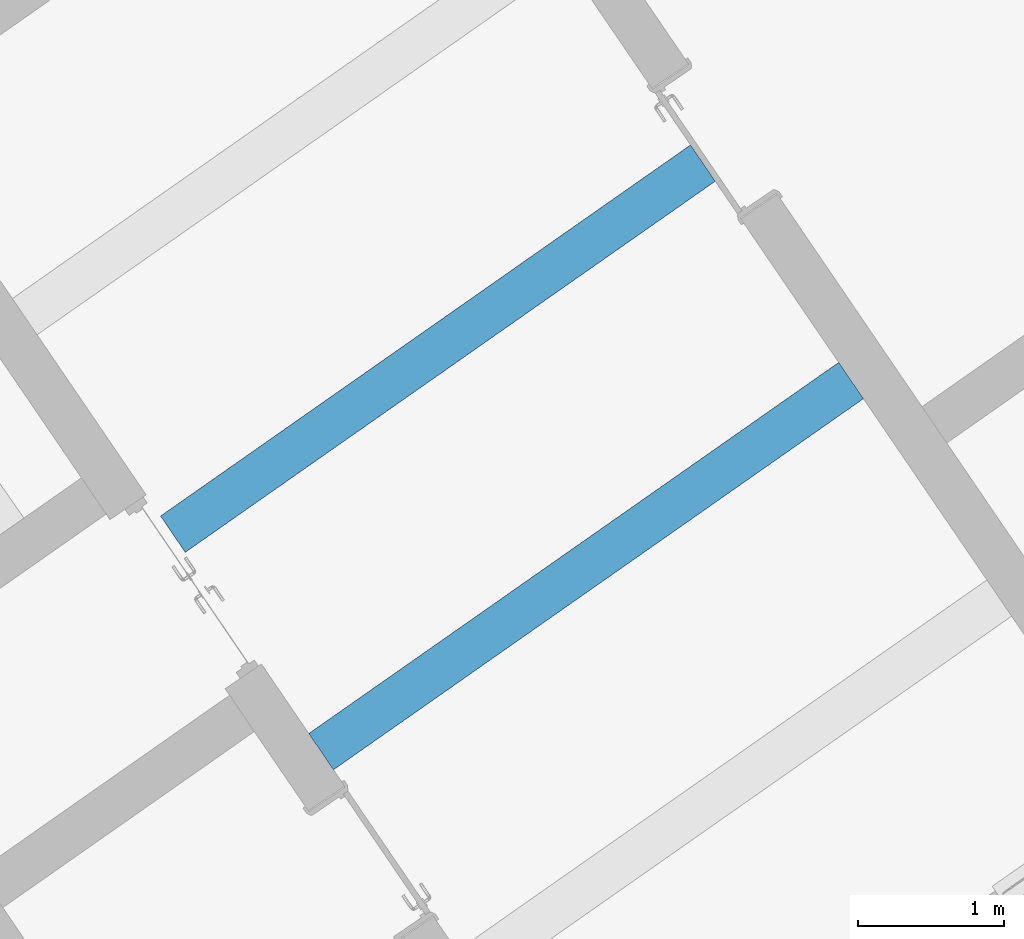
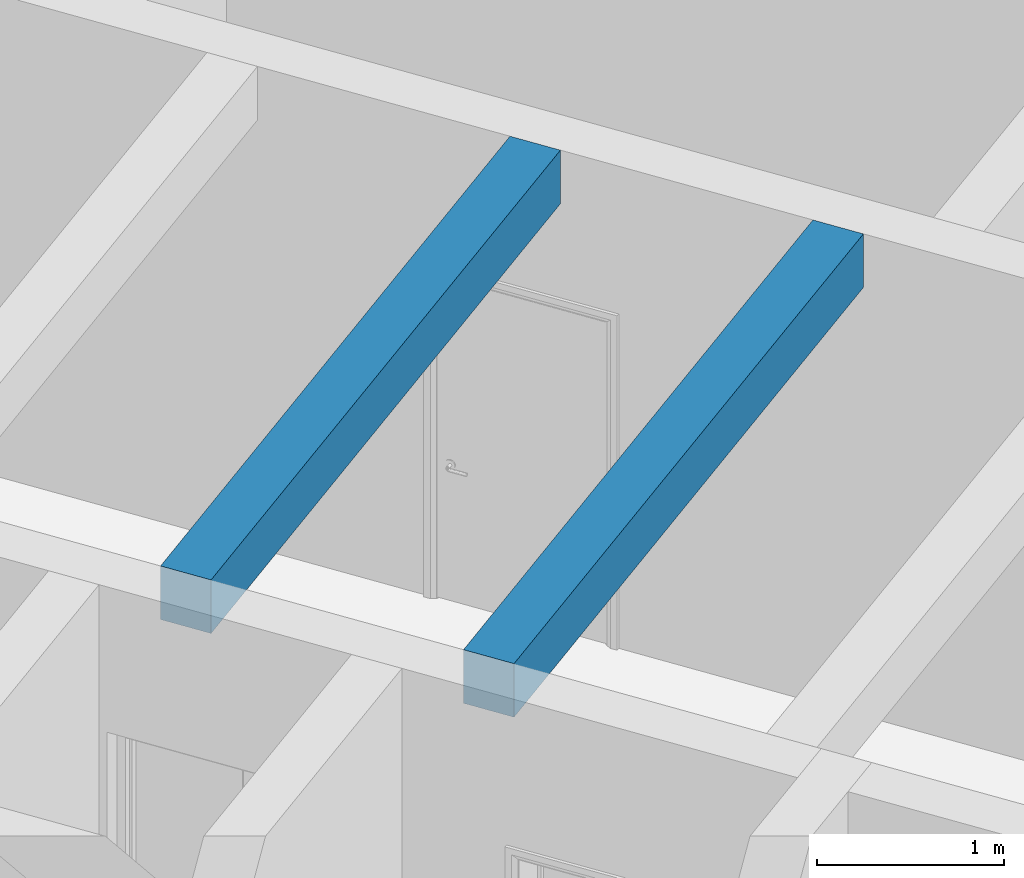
# One storey, part 42 of 112: 2 walls.
"""IFC2X3 building model written with IfcOpenShell, lengths in millimetres."""

from ifc_helpers import new_model, entity, si_unit, converted_unit, derived_unit, direction, frame, origin, place, context, subcontext, project, spatial, polyline, outline, extrude, material, layer, layer_set, layer_usage, type_object, element, save


model = new_model("IFC2X3")

# Units and contexts
model_context = context("Model", 3, precision=0.01, world=origin(), true_north=direction((6.123031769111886e-17, 1.0)))
body_context = subcontext(model_context, "Body", "Model", "MODEL_VIEW")
ifc_project = project(units=[si_unit("LENGTHUNIT", "METRE", prefix="MILLI"), si_unit("AREAUNIT", "SQUARE_METRE"), si_unit("VOLUMEUNIT", "CUBIC_METRE"), converted_unit("PLANEANGLEUNIT", "DEGREE", entity("IfcRatioMeasure", 0.017453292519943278), si_unit("PLANEANGLEUNIT", "RADIAN"), dimensions=[0, 0, 0, 0, 0, 0, 0]), si_unit("MASSUNIT", "GRAM", prefix="KILO"), derived_unit("MASSDENSITYUNIT", [(si_unit("MASSUNIT", "GRAM", prefix="KILO"), 1), (si_unit("LENGTHUNIT", "METRE"), -3)]), derived_unit("MOMENTOFINERTIAUNIT", [(si_unit("LENGTHUNIT", "METRE"), 4)]), si_unit("TIMEUNIT", "SECOND"), si_unit("FREQUENCYUNIT", "HERTZ"), si_unit("THERMODYNAMICTEMPERATUREUNIT", "DEGREE_CELSIUS"), derived_unit("THERMALTRANSMITTANCEUNIT", [(si_unit("MASSUNIT", "GRAM", prefix="KILO"), 1), (si_unit("THERMODYNAMICTEMPERATUREUNIT", "KELVIN"), -1), (si_unit("TIMEUNIT", "SECOND"), -3)]), derived_unit("THERMALCONDUCTANCEUNIT", [(si_unit("MASSUNIT", "GRAM", prefix="KILO"), 1), (si_unit("LENGTHUNIT", "METRE"), 1), (si_unit("THERMODYNAMICTEMPERATUREUNIT", "KELVIN"), -1), (si_unit("TIMEUNIT", "SECOND"), -3)]), derived_unit("VOLUMETRICFLOWRATEUNIT", [(si_unit("LENGTHUNIT", "METRE"), 3), (si_unit("TIMEUNIT", "SECOND"), -1)]), derived_unit("MASSFLOWRATEUNIT", [(si_unit("MASSUNIT", "GRAM", prefix="KILO"), 1), (si_unit("TIMEUNIT", "SECOND"), -1)]), derived_unit("ROTATIONALFREQUENCYUNIT", [(si_unit("TIMEUNIT", "SECOND"), -1)]), si_unit("ELECTRICCURRENTUNIT", "AMPERE"), si_unit("ELECTRICVOLTAGEUNIT", "VOLT"), si_unit("POWERUNIT", "WATT"), converted_unit("FORCEUNIT", "KIP", entity("IfcRatioMeasure", 2.088543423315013e-05), si_unit("FORCEUNIT", "NEWTON"), dimensions=[1, 1, -2, 0, 0, 0, 0]), si_unit("ILLUMINANCEUNIT", "LUX"), si_unit("LUMINOUSFLUXUNIT", "LUMEN"), si_unit("LUMINOUSINTENSITYUNIT", "CANDELA"), derived_unit("USERDEFINED", [(si_unit("MASSUNIT", "GRAM", prefix="KILO"), -1), (si_unit("LENGTHUNIT", "METRE"), -2), (si_unit("TIMEUNIT", "SECOND"), 3), (si_unit("LUMINOUSFLUXUNIT", "LUMEN"), 1)]), derived_unit("USERDEFINED", [(si_unit("MASSUNIT", "GRAM", prefix="KILO"), 1), (si_unit("LENGTHUNIT", "METRE"), 3), (si_unit("TIMEUNIT", "SECOND"), -3), (si_unit("ELECTRICCURRENTUNIT", "AMPERE"), -2)]), derived_unit("USERDEFINED", [(si_unit("LENGTHUNIT", "METRE"), 2), (si_unit("TIMEUNIT", "SECOND"), -2)]), derived_unit("SOUNDPOWERUNIT", [(si_unit("MASSUNIT", "GRAM", prefix="KILO"), 1), (si_unit("LENGTHUNIT", "METRE"), 2), (si_unit("TIMEUNIT", "SECOND"), -3)]), derived_unit("SOUNDPRESSUREUNIT", [(si_unit("MASSUNIT", "GRAM", prefix="KILO"), 1), (si_unit("LENGTHUNIT", "METRE"), -1), (si_unit("TIMEUNIT", "SECOND"), -2)]), derived_unit("LINEARVELOCITYUNIT", [(si_unit("LENGTHUNIT", "METRE"), 1), (si_unit("TIMEUNIT", "SECOND"), -1)]), si_unit("PRESSUREUNIT", "PASCAL"), derived_unit("USERDEFINED", [(si_unit("LENGTHUNIT", "METRE"), -2), (si_unit("MASSUNIT", "GRAM", prefix="KILO"), 1), (si_unit("TIMEUNIT", "SECOND"), -2)]), derived_unit("LINEARFORCEUNIT", [(si_unit("MASSUNIT", "GRAM", prefix="KILO"), 1), (si_unit("LENGTHUNIT", "METRE"), 1), (si_unit("TIMEUNIT", "SECOND"), -2), (si_unit("LENGTHUNIT", "METRE"), -1)]), derived_unit("PLANARFORCEUNIT", [(si_unit("MASSUNIT", "GRAM", prefix="KILO"), 1), (si_unit("LENGTHUNIT", "METRE"), 1), (si_unit("TIMEUNIT", "SECOND"), -2), (si_unit("LENGTHUNIT", "METRE"), -2)]), derived_unit("SPECIFICHEATCAPACITYUNIT", [(si_unit("LENGTHUNIT", "METRE"), 2), (si_unit("TIMEUNIT", "SECOND"), -2), (si_unit("THERMODYNAMICTEMPERATUREUNIT", "KELVIN"), -1)]), derived_unit("VAPORPERMEABILITYUNIT", [(si_unit("TIMEUNIT", "SECOND"), 1), (si_unit("LENGTHUNIT", "METRE"), -1)]), derived_unit("DYNAMICVISCOSITYUNIT", [(si_unit("MASSUNIT", "GRAM", prefix="KILO"), 1), (si_unit("LENGTHUNIT", "METRE"), -1), (si_unit("TIMEUNIT", "SECOND"), -1)]), derived_unit("THERMALEXPANSIONCOEFFICIENTUNIT", [(si_unit("THERMODYNAMICTEMPERATUREUNIT", "KELVIN"), -1)])], contexts=[model_context])

# Site, building, storey
site_placement = place(None, frame((0.0, 0.0, 0.0), z_axis=(0.0, 0.0, 1.0), x_axis=(0.8191520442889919, 0.5735764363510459, 0.0)))
site = spatial("IfcSite", under=ifc_project, at=site_placement, Name="Default", CompositionType="ELEMENT")
building_placement = place(site_placement, origin())
building = spatial("IfcBuilding", under=site, at=building_placement, CompositionType="ELEMENT")
storey_placement = place(building_placement, frame((0.0, 0.0, -3600.0)))
storey = spatial("IfcBuildingStorey", under=building, at=storey_placement, Name="0.UG -3.60", CompositionType="ELEMENT", Elevation=-3600.0000000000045)

# Walls
ifc_material = material(Name="Analytical Wall Surface_CJC")
ifc_layer = layer(ifc_material, 300.0)
ifc_layer_set = layer_set([ifc_layer], Name="Basic Wall:Wand_Innen_30")
ifc_layer_usage = layer_usage(ifc_layer_set, "AXIS2", "NEGATIVE", 150.0)
wall_type = type_object("IfcWallType", Name="Basic Wall:Wand_Innen_30", PredefinedType="STANDARD", material=ifc_layer_set)
wall_1_placement = place(storey_placement, frame((-213082.6103453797, 57796.35891435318, 3100.0), z_axis=(0.0, 0.0, 1.0), x_axis=(-1.0, 0.0, 0.0)))
element("IfcWallStandardCase", 1, at=wall_1_placement, inside=storey, type_object=wall_type, material=ifc_layer_usage, Name="Basic Wall:Wand_Innen_30", ObjectType="Basic Wall:Wand_Innen_30", context=body_context, shape_type="SweptSolid", body=[
    extrude(outline(polyline([(4425.3585623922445, -150.0), (4429.177748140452, 150.0), (3.819185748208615, 150.0), (0.0, -150.0), (4425.3585623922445, -150.0)])), origin(), (0.0, 0.0, 1.0), 350.0),
])
wall_2_placement = place(storey_placement, frame((-213105.52545986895, 55996.35891435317, 3100.0), z_axis=(0.0, 0.0, 1.0), x_axis=(-1.0, 0.0, 0.0)))
element("IfcWallStandardCase", 2, at=wall_2_placement, inside=storey, type_object=wall_type, material=ifc_layer_usage, Name="Basic Wall:Wand_Innen_30", ObjectType="Basic Wall:Wand_Innen_30", context=body_context, shape_type="SweptSolid", body=[
    extrude(outline(polyline([(4425.358562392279, -150.0), (4429.177748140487, 150.0), (3.819185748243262, 150.0), (0.0, -150.0), (4425.358562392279, -150.0)])), origin(), (0.0, 0.0, 1.0), 350.0),
])

save(model, "model.ifc")
